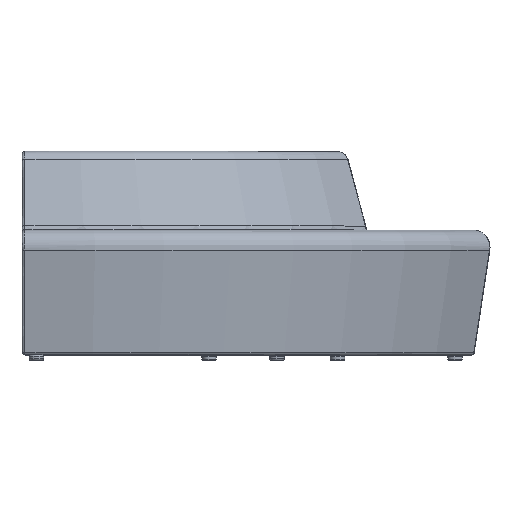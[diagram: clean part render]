
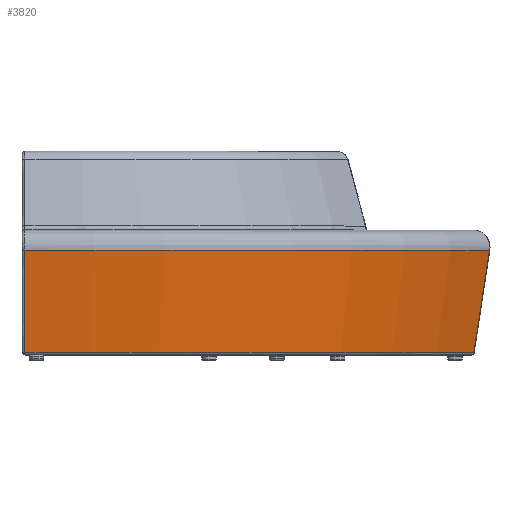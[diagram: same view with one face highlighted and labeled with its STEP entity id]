
A CAD part, top view. The second image highlights one B-rep face of the part: STEP entity #3820.
In plain terms, the highlighted conical face has half-angle 10 degrees and reference radius 1800.71 mm.
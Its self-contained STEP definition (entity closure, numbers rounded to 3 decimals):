
#76=B_SPLINE_CURVE_WITH_KNOTS('',3,(#7583,#7584,#7585,#7586),
 .UNSPECIFIED.,.F.,.F.,(4,4),(-35.775,0.),.UNSPECIFIED.);
#85=B_SPLINE_CURVE_WITH_KNOTS('',3,(#7925,#7926,#7927,#7928),
 .UNSPECIFIED.,.F.,.F.,(4,4),(0.,35.775),.UNSPECIFIED.);
#170=CONICAL_SURFACE('',#4472,1800.705,0.175);
#360=CIRCLE('',#4438,1770.46);
#374=CIRCLE('',#4462,1832.583);
#901=FACE_OUTER_BOUND('',#1149,.T.);
#1149=EDGE_LOOP('',(#3393,#3394,#3395,#3396));
#1899=VERTEX_POINT('',#7372);
#1916=VERTEX_POINT('',#7443);
#1930=VERTEX_POINT('',#7537);
#1935=VERTEX_POINT('',#7874);
#2379=EDGE_CURVE('',#1916,#1930,#76,.T.);
#2392=EDGE_CURVE('',#1899,#1916,#360,.T.);
#2401=EDGE_CURVE('',#1935,#1899,#85,.T.);
#2428=EDGE_CURVE('',#1930,#1935,#374,.T.);
#3393=ORIENTED_EDGE('',*,*,#2401,.F.);
#3394=ORIENTED_EDGE('',*,*,#2428,.F.);
#3395=ORIENTED_EDGE('',*,*,#2379,.F.);
#3396=ORIENTED_EDGE('',*,*,#2392,.F.);
#3820=ADVANCED_FACE('',(#901),#170,.T.);
#4438=AXIS2_PLACEMENT_3D('',#7806,#5556,#5557);
#4462=AXIS2_PLACEMENT_3D('',#8196,#5612,#5613);
#4472=AXIS2_PLACEMENT_3D('',#8215,#5632,#5633);
#5556=DIRECTION('center_axis',(0.,-1.,0.));
#5557=DIRECTION('ref_axis',(0.5,0.,0.866));
#5612=DIRECTION('center_axis',(0.,1.,0.));
#5613=DIRECTION('ref_axis',(0.,0.,1.));
#5632=DIRECTION('center_axis',(0.,1.,0.));
#5633=DIRECTION('ref_axis',(0.,0.,1.));
#7372=CARTESIAN_POINT('',(1547.764,27.264,-1715.367));
#7443=CARTESIAN_POINT('',(-2.062,27.264,-820.574));
#7537=CARTESIAN_POINT('',(-2.059,379.581,-758.45));
#7583=CARTESIAN_POINT('Ctrl Pts',(-2.062,27.264,-820.574));
#7584=CARTESIAN_POINT('Ctrl Pts',(-2.061,144.703,-799.866));
#7585=CARTESIAN_POINT('Ctrl Pts',(-2.06,262.142,-779.158));
#7586=CARTESIAN_POINT('Ctrl Pts',(-2.059,379.581,-758.45));
#7806=CARTESIAN_POINT('Origin',(9.,27.264,-2591.));
#7874=CARTESIAN_POINT('',(1601.565,379.581,-1684.303));
#7925=CARTESIAN_POINT('Ctrl Pts',(1601.565,379.581,-1684.303));
#7926=CARTESIAN_POINT('Ctrl Pts',(1583.631,262.142,-1694.657));
#7927=CARTESIAN_POINT('Ctrl Pts',(1565.698,144.703,-1705.012));
#7928=CARTESIAN_POINT('Ctrl Pts',(1547.764,27.264,-1715.367));
#8196=CARTESIAN_POINT('Origin',(9.,379.581,-2591.));
#8215=CARTESIAN_POINT('Origin',(9.,198.791,-2591.));
